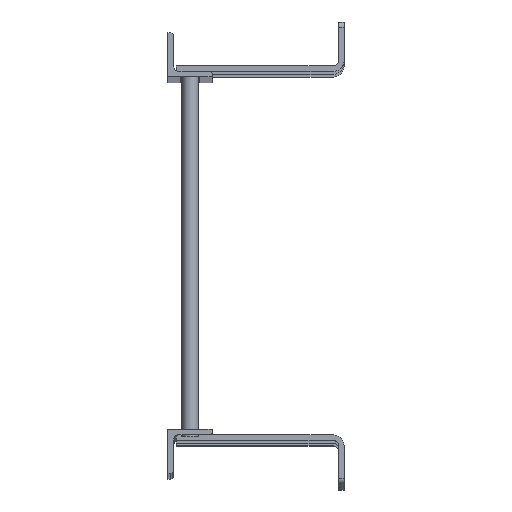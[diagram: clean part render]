
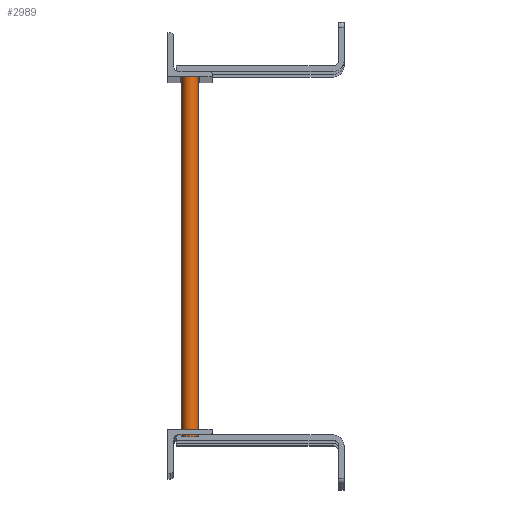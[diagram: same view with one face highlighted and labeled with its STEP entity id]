
A CAD part, top view. The second image highlights one B-rep face of the part: STEP entity #2989.
In plain terms, the highlighted cylindrical face has radius 9.525 mm (diameter 19.05 mm), a full revolution.
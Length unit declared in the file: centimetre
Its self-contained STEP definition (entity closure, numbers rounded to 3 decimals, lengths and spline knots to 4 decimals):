
#544=FACE_BOUND('',#839,.T.);
#660=FACE_OUTER_BOUND('',#838,.T.);
#838=EDGE_LOOP('',(#1960));
#839=EDGE_LOOP('',(#1961));
#1132=CIRCLE('',#3185,0.9525);
#1133=CIRCLE('',#3186,0.9525);
#1302=VERTEX_POINT('',#4440);
#1303=VERTEX_POINT('',#4442);
#1582=EDGE_CURVE('',#1302,#1302,#1132,.T.);
#1583=EDGE_CURVE('',#1303,#1303,#1133,.T.);
#1960=ORIENTED_EDGE('',*,*,#1582,.T.);
#1961=ORIENTED_EDGE('',*,*,#1583,.F.);
#2716=CYLINDRICAL_SURFACE('',#3184,0.9525);
#2989=ADVANCED_FACE('',(#660,#544),#2716,.T.);
#3184=AXIS2_PLACEMENT_3D('',#4439,#3534,#3535);
#3185=AXIS2_PLACEMENT_3D('',#4441,#3536,#3537);
#3186=AXIS2_PLACEMENT_3D('',#4443,#3538,#3539);
#3534=DIRECTION('center_axis',(0.,-1.,0.));
#3535=DIRECTION('ref_axis',(1.,0.,0.));
#3536=DIRECTION('center_axis',(0.,1.,0.));
#3537=DIRECTION('ref_axis',(1.,0.,0.));
#3538=DIRECTION('center_axis',(0.,1.,0.));
#3539=DIRECTION('ref_axis',(1.,0.,0.));
#4439=CARTESIAN_POINT('Origin',(2.54,0.4762,400.05));
#4440=CARTESIAN_POINT('',(1.5875,-41.4338,400.05));
#4441=CARTESIAN_POINT('Origin',(2.54,-41.4338,400.05));
#4442=CARTESIAN_POINT('',(1.5875,0.4762,400.05));
#4443=CARTESIAN_POINT('Origin',(2.54,0.4762,400.05));
